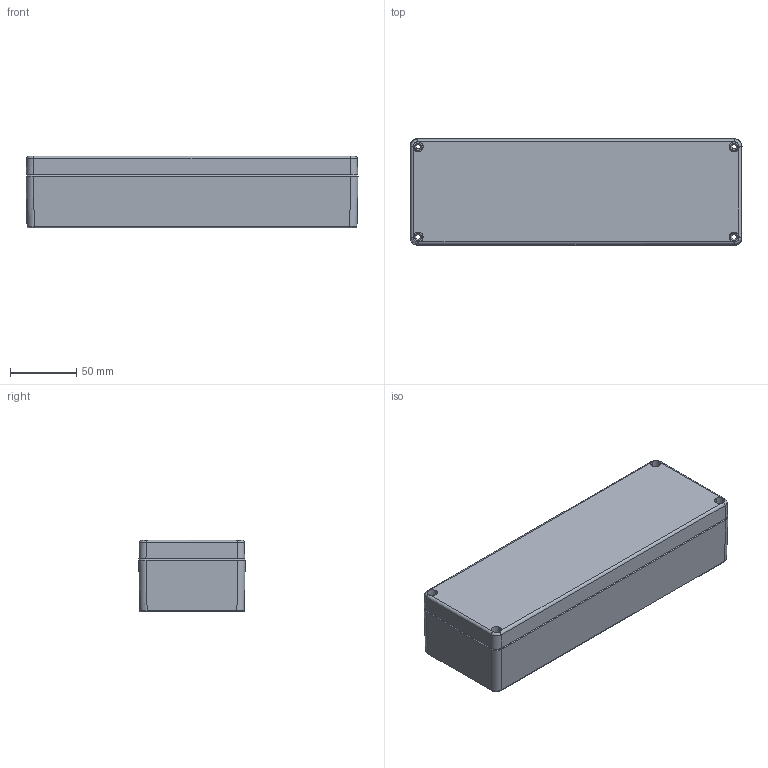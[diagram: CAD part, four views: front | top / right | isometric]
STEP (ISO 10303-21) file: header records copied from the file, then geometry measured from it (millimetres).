
FILE_DESCRIPTION (( 'STEP AP203' ), '1' );
FILE_NAME ('ALU ASSY 2508057.STEP', '2024-08-27T07:17:40', ( '' ), ( '' ), 'SwSTEP 2.0', 'SolidWorks 2018', '' );
FILE_SCHEMA (( 'CONFIG_CONTROL_DESIGN' ));
Length unit declared in the file: millimetre
Products named in the file (3): ALU BASE 2508057; ALU ASSY 2508057; ALU LID 2508057
Assembly tree (2 placements, depth 2):
  ALU ASSY 2508057
    ALU BASE 2508057
    ALU LID 2508057
Bounding box: 250.1 x 80.22 x 54.1 mm (x, y, z)
Volume: 288588.1 mm3; surface area: 150390.6 mm2
Topology: 10 solids, 10 shells, 630 faces, 1498 edges, 915 vertices
Faces by surface type: plane 185, bspline 184, cylinder 176, cone 85
Entity records: 30203 total; most frequent: CARTESIAN_POINT 17233, ORIENTED_EDGE 2976, DIRECTION 1931, EDGE_CURVE 1488, VERTEX_POINT 915, EDGE_LOOP 691, LINE 647, VECTOR 647
